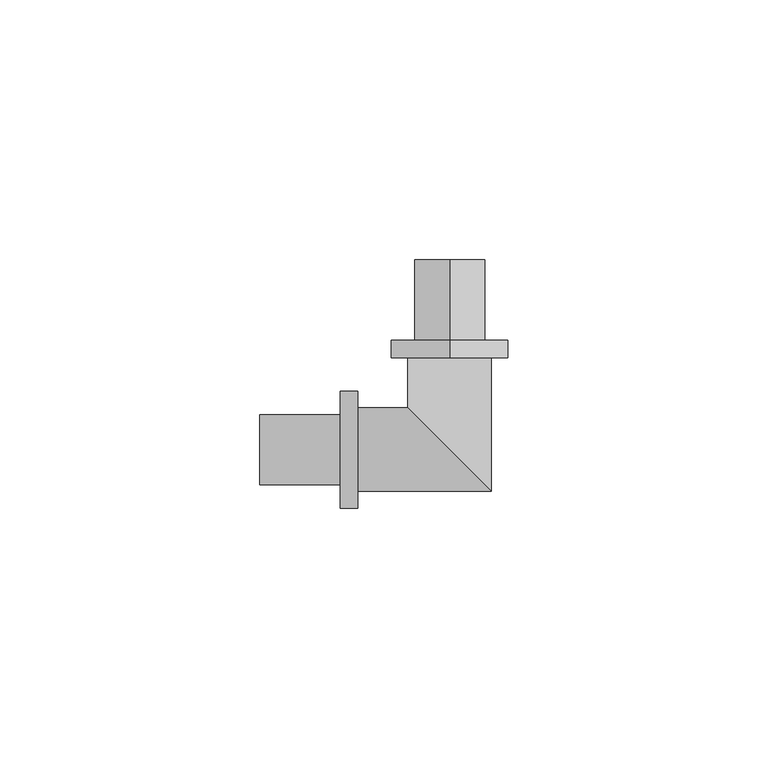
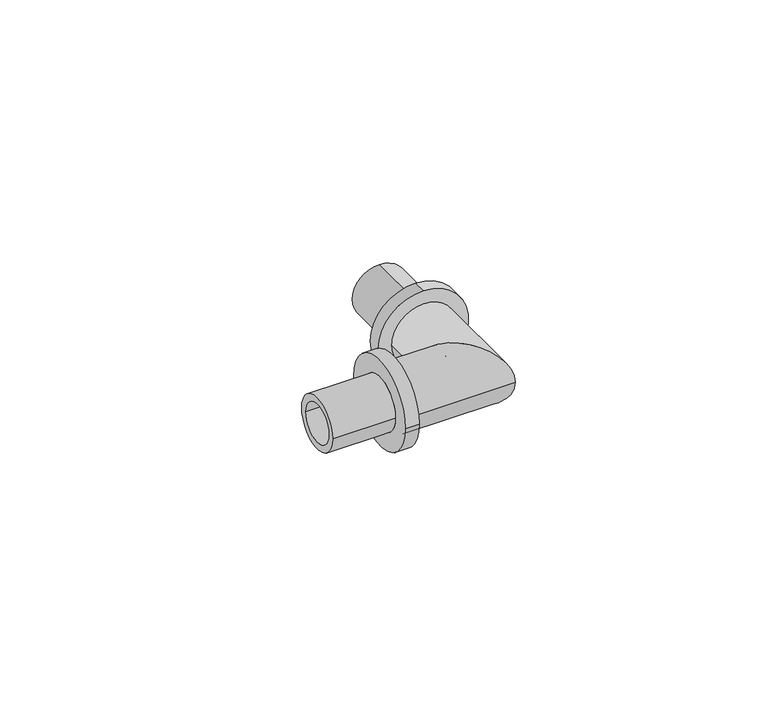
"""IFC4 building model written with IfcOpenShell, lengths in millimetres: pipe fitting geometry, RAUTITAN_Corner_LX : RTI LX C NL."""

from ifc_helpers import new_model, si_unit, frame, origin, place, context, project, spatial, polyline, circle_curve, ellipse_curve, source, transform, mapped, element, save
from ifc_brep_helpers import plane_surface, cylinder_surface, revolved_surface, advanced_brep


def pipe_fitting_0a56e29a(model_context):
    return source(origin(), model_context, "Body", "AdvancedBrep", [
        advanced_brep(
        [(0.0, 21.0, 11.25), (0.0, 21.0, -11.25), (0.0, 17.7, -11.25), (0.0, 17.7, 11.25), (0.0, 36.5, 6.75), (0.0, 36.5, -6.75), (0.0, 21.0, -6.75), (0.0, 21.0, 6.75), (0.0, 17.7, 4.95), (0.0, 17.7, -4.95), (0.0, 36.5, -4.95), (0.0, 36.5, 4.95)],
        [
            (0, 1, circle_curve(frame((0.0, 21.0, 0.0), z_axis=(0.0, -1.0, 0.0), x_axis=(0.0, 0.0, -1.0)), 11.25)),
            (1, 2),
            (2, 3, circle_curve(frame((0.0, 17.7, 0.0), z_axis=(0.0, 1.0, 0.0), x_axis=(0.0, 0.0, -1.0)), 11.25)),
            (3, 0),
            (4, 5, circle_curve(frame((0.0, 36.5, 0.0), z_axis=(0.0, -1.0, 0.0), x_axis=(0.0, 0.0, -1.0)), 6.75)),
            (5, 6),
            (6, 7, circle_curve(frame((0.0, 21.0, 0.0), z_axis=(0.0, 1.0, 0.0), x_axis=(0.0, 0.0, -1.0)), 6.75)),
            (7, 4),
            (8, 9, circle_curve(frame((0.0, 17.7, 0.0), z_axis=(0.0, -1.0, 0.0), x_axis=(0.0, 0.0, -1.0)), 4.95)),
            (9, 10),
            (10, 11, circle_curve(frame((0.0, 36.5, 0.0), z_axis=(0.0, 1.0, 0.0), x_axis=(0.0, 0.0, -1.0)), 4.95)),
            (11, 8),
            (1, 0, circle_curve(frame((0.0, 21.0, 0.0), z_axis=(0.0, -1.0, 0.0), x_axis=(0.0, 0.0, 1.0)), 11.25)),
            (3, 2, circle_curve(frame((0.0, 17.7, 0.0), z_axis=(0.0, 1.0, 0.0), x_axis=(0.0, 0.0, 1.0)), 11.25)),
            (6, 7, circle_curve(frame((0.0, 21.0, 0.0), z_axis=(0.0, -1.0, 0.0), x_axis=(0.0, 0.0, 1.0)), 6.75)),
            (5, 4, circle_curve(frame((0.0, 36.5, 0.0), z_axis=(0.0, -1.0, 0.0), x_axis=(0.0, 0.0, 1.0)), 6.75)),
            (10, 11, circle_curve(frame((0.0, 36.5, 0.0), z_axis=(0.0, -1.0, 0.0), x_axis=(0.0, 0.0, 1.0)), 4.95)),
            (9, 8, circle_curve(frame((0.0, 17.7, 0.0), z_axis=(0.0, -1.0, 0.0), x_axis=(0.0, 0.0, 1.0)), 4.95)),
        ],
        [
            cylinder_surface(frame((0.0, 17.7, 0.0), z_axis=(0.0, 1.0, 0.0), x_axis=(0.0, 0.0, -1.0)), 11.25),
            cylinder_surface(frame((0.0, 17.7, 0.0), z_axis=(0.0, 1.0, 0.0), x_axis=(0.0, 0.0, -1.0)), 6.75),
            revolved_surface(polyline([(0.0, 36.5, -4.95), (0.0, 17.7, -4.95)]), (0.0, 17.7, 0.0), (0.0, 1.0, 0.0)),
            cylinder_surface(frame((0.0, 17.7, 0.0), z_axis=(0.0, 1.0, 0.0), x_axis=(0.0, 0.0, 1.0)), 11.25),
            plane_surface(frame((0.0, 21.0, 0.0), z_axis=(0.0, 1.0, 0.0), x_axis=(0.0, 0.0, 1.0))),
            cylinder_surface(frame((0.0, 17.7, 0.0), z_axis=(0.0, 1.0, 0.0), x_axis=(0.0, 0.0, 1.0)), 6.75),
            plane_surface(frame((0.0, 36.5, 0.0), z_axis=(0.0, 1.0, 0.0), x_axis=(0.0, 0.0, 1.0))),
            revolved_surface(polyline([(0.0, 36.5, 4.95), (0.0, 17.7, 4.95)]), (0.0, 17.7, 0.0), (0.0, 1.0, 0.0)),
            plane_surface(frame((0.0, 17.7, 0.0), z_axis=(0.0, -1.0, 0.0), x_axis=(0.0, 0.0, 1.0))),
        ],
        [
            (0, [[1, 2, 3, 4]]),
            (1, [[5, 6, 7, 8]]),
            (2, [[9, 10, 11, 12]]),
            (3, [[13, -4, 14, -2]]),
            (4, [[-13, -1], [15, -7]]),
            (5, [[16, -8, -15, -6]]),
            (6, [[-16, -5], [17, -11]]),
            (7, [[18, -12, -17, -10]]),
            (8, [[-14, -3], [-18, -9]]),
        ],
    ),
        advanced_brep(
        [(-21.0, -11.25, 0.0), (-21.0, 11.25, 0.0), (-17.7, 11.25, 0.0), (-17.7, -11.25, 0.0), (-36.5, -6.75, 0.0), (-36.5, 6.75, 0.0), (-21.0, 6.75, 0.0), (-21.0, -6.75, 0.0), (-17.7, -4.95, 0.0), (-17.7, 4.95, 0.0), (-36.5, 4.95, 0.0), (-36.5, -4.95, 0.0)],
        [
            (0, 1, circle_curve(frame((-21.0, 0.0, 0.0), z_axis=(1.0, 0.0, 0.0), x_axis=(0.0, 1.0, 0.0)), 11.25)),
            (1, 2),
            (2, 3, circle_curve(frame((-17.7, 0.0, 0.0), z_axis=(-1.0, 0.0, 0.0), x_axis=(0.0, 1.0, 0.0)), 11.25)),
            (3, 0),
            (4, 5, circle_curve(frame((-36.5, 0.0, 0.0), z_axis=(1.0, 0.0, 0.0), x_axis=(0.0, 1.0, 0.0)), 6.75)),
            (5, 6),
            (6, 7, circle_curve(frame((-21.0, 0.0, 0.0), z_axis=(-1.0, 0.0, 0.0), x_axis=(0.0, 1.0, 0.0)), 6.75)),
            (7, 4),
            (8, 9, circle_curve(frame((-17.7, 0.0, 0.0), z_axis=(1.0, 0.0, 0.0), x_axis=(0.0, 1.0, 0.0)), 4.95)),
            (9, 10),
            (10, 11, circle_curve(frame((-36.5, 0.0, 0.0), z_axis=(-1.0, 0.0, 0.0), x_axis=(0.0, 1.0, 0.0)), 4.95)),
            (11, 8),
            (1, 0, circle_curve(frame((-21.0, 0.0, 0.0), z_axis=(1.0, 0.0, 0.0), x_axis=(0.0, -1.0, 0.0)), 11.25)),
            (3, 2, circle_curve(frame((-17.7, 0.0, 0.0), z_axis=(-1.0, 0.0, 0.0), x_axis=(0.0, -1.0, 0.0)), 11.25)),
            (6, 7, circle_curve(frame((-21.0, 0.0, 0.0), z_axis=(1.0, 0.0, 0.0), x_axis=(0.0, -1.0, 0.0)), 6.75)),
            (5, 4, circle_curve(frame((-36.5, 0.0, 0.0), z_axis=(1.0, 0.0, 0.0), x_axis=(0.0, -1.0, 0.0)), 6.75)),
            (10, 11, circle_curve(frame((-36.5, 0.0, 0.0), z_axis=(1.0, 0.0, 0.0), x_axis=(0.0, -1.0, 0.0)), 4.95)),
            (9, 8, circle_curve(frame((-17.7, 0.0, 0.0), z_axis=(1.0, 0.0, 0.0), x_axis=(0.0, -1.0, 0.0)), 4.95)),
        ],
        [
            cylinder_surface(frame((-17.7, 0.0, 0.0), z_axis=(-1.0, 0.0, 0.0), x_axis=(0.0, 1.0, 0.0)), 11.25),
            cylinder_surface(frame((-17.7, 0.0, 0.0), z_axis=(-1.0, 0.0, 0.0), x_axis=(0.0, 1.0, 0.0)), 6.75),
            revolved_surface(polyline([(-36.5, 4.95, 0.0), (-17.7, 4.95, 0.0)]), (-17.7, 0.0, 0.0), (-1.0, 0.0, 0.0)),
            cylinder_surface(frame((-17.7, 0.0, 0.0), z_axis=(-1.0, 0.0, 0.0), x_axis=(0.0, -1.0, 0.0)), 11.25),
            plane_surface(frame((-21.0, 0.0, 0.0), z_axis=(-1.0, 0.0, 0.0), x_axis=(0.0, -1.0, 0.0))),
            cylinder_surface(frame((-17.7, 0.0, 0.0), z_axis=(-1.0, 0.0, 0.0), x_axis=(0.0, -1.0, 0.0)), 6.75),
            plane_surface(frame((-36.5, 0.0, 0.0), z_axis=(-1.0, 0.0, 0.0), x_axis=(0.0, -1.0, 0.0))),
            revolved_surface(polyline([(-36.5, -4.95, 0.0), (-17.7, -4.95, 0.0)]), (-17.7, 0.0, 0.0), (-1.0, 0.0, 0.0)),
            plane_surface(frame((-17.7, 0.0, 0.0), z_axis=(1.0, 0.0, 0.0), x_axis=(0.0, -1.0, 0.0))),
        ],
        [
            (0, [[1, 2, 3, 4]]),
            (1, [[5, 6, 7, 8]]),
            (2, [[9, 10, 11, 12]]),
            (3, [[13, -4, 14, -2]]),
            (4, [[-13, -1], [15, -7]]),
            (5, [[16, -8, -15, -6]]),
            (6, [[-16, -5], [17, -11]]),
            (7, [[18, -12, -17, -10]]),
            (8, [[-14, -3], [-18, -9]]),
        ],
    ),
        advanced_brep(
        [(-17.7, -8.05, 0.0), (-17.7, 8.05, 0.0), (-17.7, -4.95, 0.0), (-17.7, 4.95, 0.0), (-4.95, 4.95, 0.0), (4.95, -4.95, 0.0), (8.05, 17.7, 0.0), (-8.05, 17.7, 0.0), (4.95, 17.7, 0.0), (-4.95, 17.7, 0.0), (8.05, -8.05, 0.0), (-8.05, 8.05, 0.0)],
        [
            (0, 1, circle_curve(frame((-17.7, 0.0, 0.0), z_axis=(-1.0, 0.0, 0.0), x_axis=(0.0, 1.0, 0.0)), 8.05)),
            (1, 0, circle_curve(frame((-17.7, 0.0, 0.0), z_axis=(-1.0, 0.0, 0.0), x_axis=(0.0, 1.0, 0.0)), 8.05)),
            (2, 3, circle_curve(frame((-17.7, 0.0, 0.0), z_axis=(1.0, 0.0, 0.0), x_axis=(0.0, 1.0, 0.0)), 4.95)),
            (3, 2, circle_curve(frame((-17.7, 0.0, 0.0), z_axis=(1.0, 0.0, 0.0), x_axis=(0.0, 1.0, 0.0)), 4.95)),
            (3, 4),
            (4, 5, ellipse_curve(frame((0.0, 0.0, 0.0), z_axis=(0.707106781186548, 0.7071067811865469, 0.0), x_axis=(0.7071067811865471, -0.7071067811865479, 0.0)), 7.0003571, 4.95)),
            (5, 2),
            (5, 4, ellipse_curve(frame((0.0, 0.0, 0.0), z_axis=(0.707106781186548, 0.7071067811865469, 0.0), x_axis=(0.7071067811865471, -0.7071067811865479, 0.0)), 7.0003571, 4.95)),
            (6, 7, circle_curve(frame((0.0, 17.7, 0.0), z_axis=(0.0, 1.0, 0.0), x_axis=(-1.0, 0.0, 0.0)), 8.05)),
            (7, 6, circle_curve(frame((0.0, 17.7, 0.0), z_axis=(0.0, 1.0, 0.0), x_axis=(-1.0, 0.0, 0.0)), 8.05)),
            (8, 9, circle_curve(frame((0.0, 17.7, 0.0), z_axis=(0.0, -1.0, 0.0), x_axis=(-1.0, 0.0, 0.0)), 4.95)),
            (9, 8, circle_curve(frame((0.0, 17.7, 0.0), z_axis=(0.0, -1.0, 0.0), x_axis=(-1.0, 0.0, 0.0)), 4.95)),
            (4, 9),
            (8, 5),
            (0, 10),
            (10, 11, ellipse_curve(frame((0.0, 0.0, 0.0), z_axis=(-0.707106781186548, -0.7071067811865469, 0.0), x_axis=(-0.7071067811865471, 0.7071067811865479, 0.0)), 11.3844192, 8.05)),
            (11, 1),
            (11, 10, ellipse_curve(frame((0.0, 0.0, 0.0), z_axis=(-0.707106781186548, -0.7071067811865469, 0.0), x_axis=(-0.7071067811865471, 0.7071067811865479, 0.0)), 11.3844192, 8.05)),
            (10, 6),
            (7, 11),
        ],
        [
            plane_surface(frame((-17.7, 0.0, 0.0), z_axis=(-1.0, 0.0, 0.0), x_axis=(0.0, 0.0, 1.0))),
            revolved_surface(polyline([(4.949999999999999, 4.95, 0.0), (-17.7, 4.95, 0.0)]), (-17.7, 0.0, 0.0), (1.0, 0.0, 0.0)),
            plane_surface(frame((0.0, 17.7, 0.0), z_axis=(0.0, 1.0, 0.0), x_axis=(0.0, 0.0, 1.0))),
            revolved_surface(polyline([(-4.95, 17.7, 0.0), (-4.95, -4.95, 0.0)]), (0.0, 0.0, 0.0), (0.0, 1.0, 0.0)),
            cylinder_surface(frame((-17.7, 0.0, 0.0), z_axis=(-1.0, 0.0, 0.0), x_axis=(0.0, 1.0, 0.0)), 8.05),
            cylinder_surface(frame((0.0, 0.0, 0.0), z_axis=(0.0, -1.0, 0.0), x_axis=(-1.0, 0.0, 0.0)), 8.05),
        ],
        [
            (0, [[1, 2], [3, 4]]),
            (1, [[-4, 5, 6, 7]]),
            (1, [[-3, -7, 8, -5]]),
            (2, [[9, 10], [11, 12]]),
            (3, [[-6, 13, -11, 14]]),
            (3, [[-8, -14, -12, -13]]),
            (4, [[-1, 15, 16, 17]]),
            (4, [[-2, -17, 18, -15]]),
            (5, [[-16, 19, -10, 20]]),
            (5, [[-18, -20, -9, -19]]),
        ],
    ),
    ])


if __name__ == "__main__":
    model = new_model("IFC4")
    model_context = context("Model", 3, world=origin())
    ifc_project = project(units=[si_unit("LENGTHUNIT", "METRE", prefix="MILLI")], contexts=[model_context])
    site = spatial("IfcSite", under=ifc_project)
    building = spatial("IfcBuilding", under=site)
    placement = place(None, origin())
    pipe_fitting_shape = pipe_fitting_0a56e29a(model_context)
    element("IfcPipeFitting", 1, ObjectType="RAUTITAN_Corner_LX : RTI LX C NL", at=placement, inside=building, context=model_context, shape_type="MappedRepresentation", body=[
        mapped(pipe_fitting_shape, transform((0.0, 0.0, 0.0), x_axis=(1.0, 0.0, 0.0), y_axis=(0.0, 1.0, 0.0), z_axis=(0.0, 0.0, 1.0))),
    ])
    save(model, "model.ifc")
